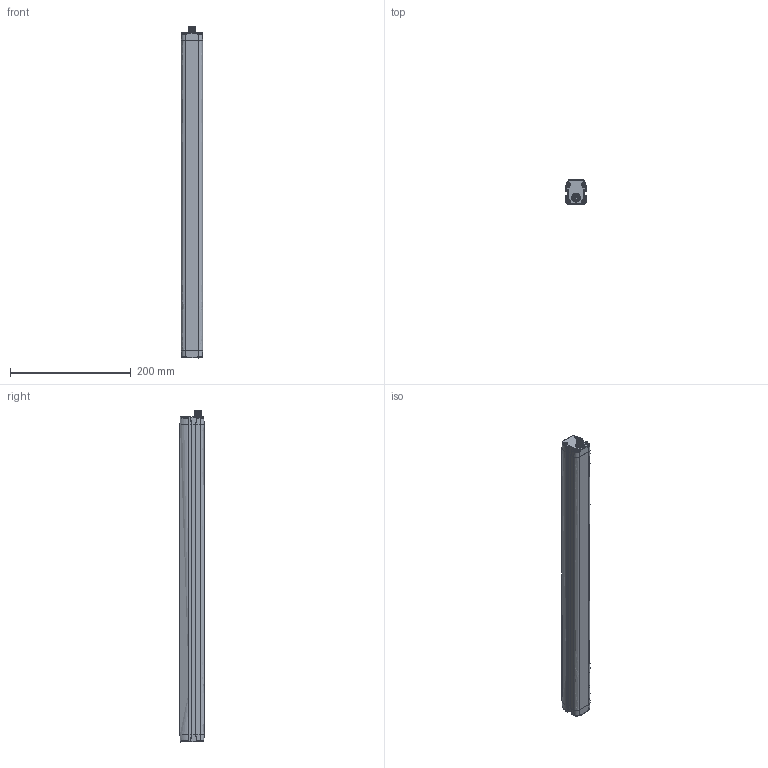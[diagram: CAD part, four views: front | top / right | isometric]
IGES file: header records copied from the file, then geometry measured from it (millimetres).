
Global section: file name: C:\Users\lrossetti\Desktop\AP006296_00_DSD-DS2_RX.igs; native system: NX V7.5; preprocessor: SIEMENS PLM Software NX 7.5; date: 20130508.161439; units: millimetre
Bounding box: 35 x 40.1 x 550.4 mm (x, y, z)
Surface area: 94940.8 mm2 (no closed solid volume)
Topology: 0 solids, 0 shells, 508 faces, 3285 edges, 3203 vertices
Faces by surface type: bspline 508
